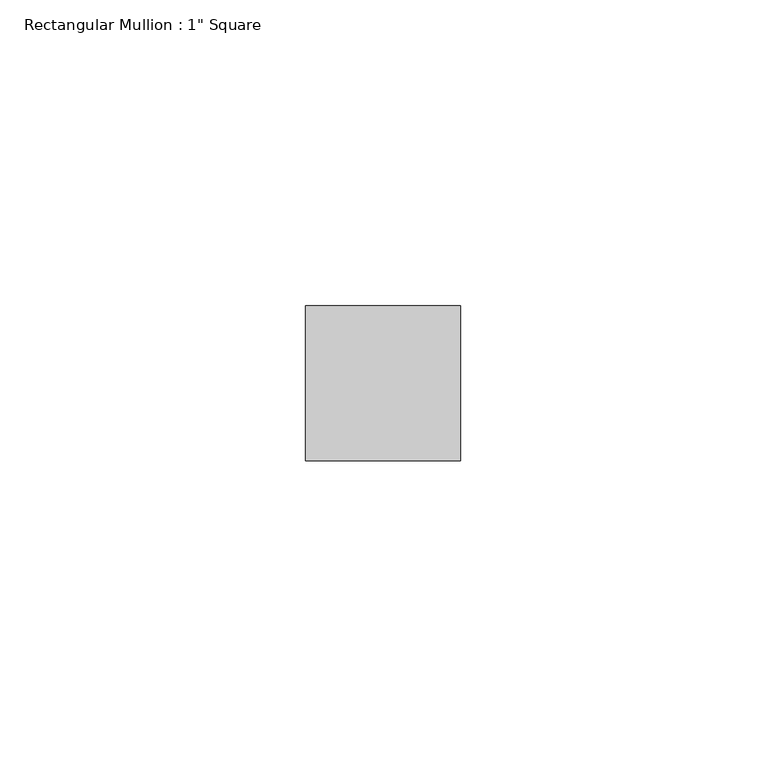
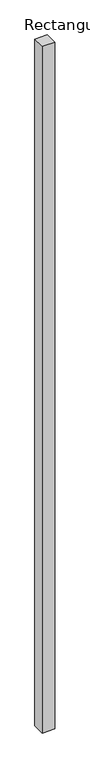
"""IFC4 building model written with IfcOpenShell, lengths in millimetres: member geometry."""

from ifc_helpers import new_model, si_unit, frame, origin, place, context, project, spatial, polyline, outline, extrude, source, transform, mapped, element, save


def member_0b29da72(model_context):
    return source(origin(), model_context, "Body", "SweptSolid", [
        extrude(outline(polyline([(12.7, 12.7), (12.7, -12.7), (-12.7, -12.7), (-12.7, 12.7), (12.7, 12.7)])), frame((0.0, 0.0, -1473.3458208), z_axis=(0.0, 0.0, 1.0), x_axis=(1.0, 0.0, 0.0)), (0.0, 0.0, 1.0), 1473.3458208),
    ])


if __name__ == "__main__":
    model = new_model("IFC4")
    model_context = context("Model", 3, world=origin())
    ifc_project = project(units=[si_unit("LENGTHUNIT", "METRE", prefix="MILLI")], contexts=[model_context])
    site = spatial("IfcSite", under=ifc_project)
    building = spatial("IfcBuilding", under=site)
    placement = place(None, origin())
    member_shape = member_0b29da72(model_context)
    element("IfcMember", 1, ObjectType="Rectangular Mullion : 1\" Square", at=placement, inside=building, context=model_context, shape_type="MappedRepresentation", body=[
        mapped(member_shape, transform((0.0, 0.0, 0.0), x_axis=(1.0, 0.0, 0.0), y_axis=(0.0, 1.0, 0.0), z_axis=(0.0, 0.0, 1.0))),
    ])
    save(model, "model.ifc")
